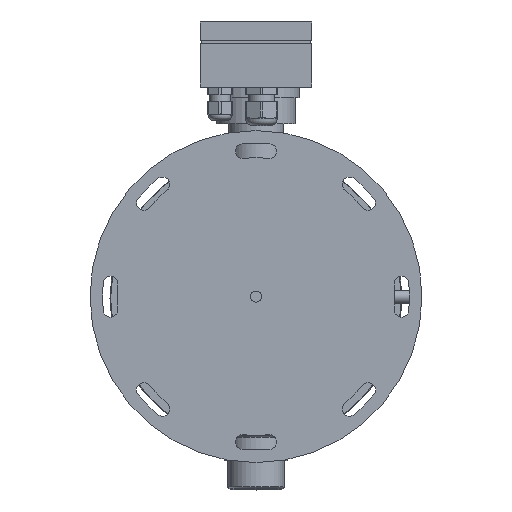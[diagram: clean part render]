
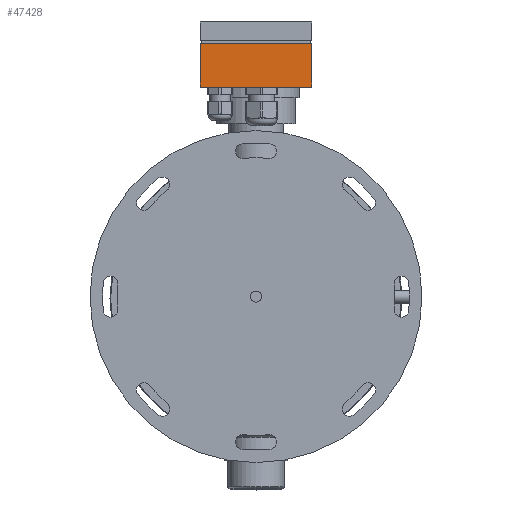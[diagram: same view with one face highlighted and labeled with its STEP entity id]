
A CAD part, top view. The second image highlights one B-rep face of the part: STEP entity #47428.
In plain terms, the highlighted planar face has unit normal (0, 0, 1) as drawn and (0, -1, 0) by its records, which use the part's own axes.
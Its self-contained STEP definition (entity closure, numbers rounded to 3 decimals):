
#2806=PLANE('',#50762);
#6381=FACE_OUTER_BOUND('',#9286,.T.);
#9286=EDGE_LOOP('',(#44506,#44507,#44508,#44509));
#13688=LINE('',#107590,#16929);
#13711=LINE('',#107646,#16952);
#13714=LINE('',#107650,#16955);
#13715=LINE('',#107651,#16956);
#16929=VECTOR('',#60345,10.);
#16952=VECTOR('',#60398,10.);
#16955=VECTOR('',#60403,10.);
#16956=VECTOR('',#60404,10.);
#23544=VERTEX_POINT('',#107588);
#23545=VERTEX_POINT('',#107589);
#23562=VERTEX_POINT('',#107644);
#23563=VERTEX_POINT('',#107645);
#30518=EDGE_CURVE('',#23544,#23545,#13688,.T.);
#30545=EDGE_CURVE('',#23562,#23563,#13711,.T.);
#30548=EDGE_CURVE('',#23544,#23563,#13714,.T.);
#30549=EDGE_CURVE('',#23545,#23562,#13715,.T.);
#44506=ORIENTED_EDGE('',*,*,#30545,.T.);
#44507=ORIENTED_EDGE('',*,*,#30548,.F.);
#44508=ORIENTED_EDGE('',*,*,#30518,.T.);
#44509=ORIENTED_EDGE('',*,*,#30549,.T.);
#47428=ADVANCED_FACE('',(#6381),#2806,.T.);
#50762=AXIS2_PLACEMENT_3D('',#107649,#60401,#60402);
#60345=DIRECTION('',(1.,0.,0.));
#60398=DIRECTION('',(-1.,0.,0.));
#60401=DIRECTION('center_axis',(0.,-1.,0.));
#60402=DIRECTION('ref_axis',(0.,0.,-1.));
#60403=DIRECTION('',(0.,0.,1.));
#60404=DIRECTION('',(0.,0.,1.));
#107588=CARTESIAN_POINT('',(-42.,0.,0.));
#107589=CARTESIAN_POINT('',(42.,0.,0.));
#107590=CARTESIAN_POINT('',(-42.,0.,0.));
#107644=CARTESIAN_POINT('',(42.,0.,33.));
#107645=CARTESIAN_POINT('',(-42.,0.,33.));
#107646=CARTESIAN_POINT('',(21.,0.,33.));
#107649=CARTESIAN_POINT('Origin',(42.,0.,0.));
#107650=CARTESIAN_POINT('',(-42.,0.,0.));
#107651=CARTESIAN_POINT('',(42.,0.,0.));
